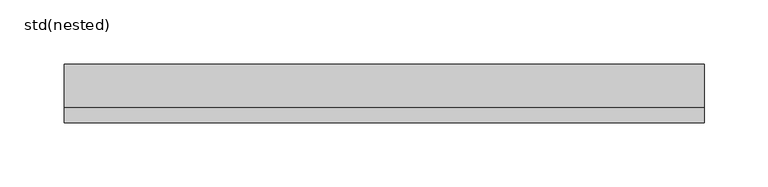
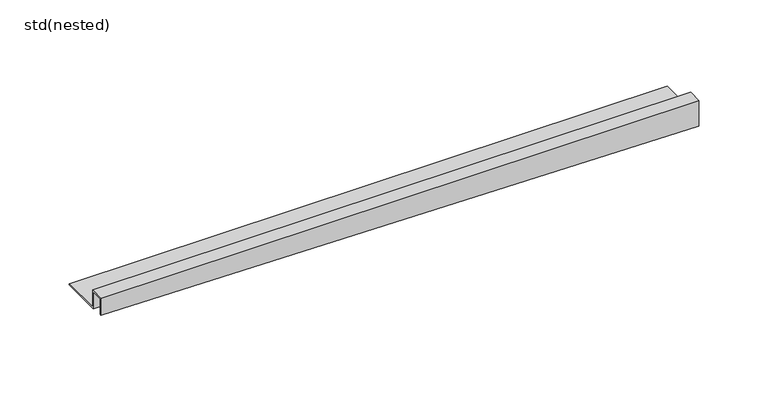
"""IFC4 building model written with IfcOpenShell, lengths in millimetres: sanitary terminal geometry, ZZZ_do not use_PF_UN_ShowerStep Black_ACO : std(nested)."""

import ifcopenshell
import ifcopenshell.guid

model = None  # the IFC model being written
_history = None  # IfcOwnerHistory: only IFC2X3 demands one
_inside = {}  # id of a spatial element -> (the spatial element, [elements in it])
_under = {}  # id of a project, library or spatial element -> (it, [spatial elements below it])
_declared = {}  # id of a project -> (the project, [libraries it declares])
_typed = {}  # id of a type object -> (the type object, [elements of that type])
_made_of = {}  # id of a material, layer set ... -> (it, [elements and type objects made of it])


def new_model(schema):
    """Start an empty IFC model of exactly this schema.

    Asked for "IFC4X3", IfcOpenShell would pick the latest addendum, in which some entities
    have other attributes; the version numbers below select the first issue.
    IFC2X3 requires an IfcOwnerHistory on every rooted entity: one is made here for all.
    """
    global model, _history
    if schema == "IFC4X3":
        model = ifcopenshell.file(schema_version=(4, 3, 0, 0))
    else:
        model = ifcopenshell.file(schema=schema)
    _inside.clear()
    _under.clear()
    _declared.clear()
    _typed.clear()
    _made_of.clear()
    _history = None
    if model.schema == "IFC2X3":
        org = make("IfcOrganization", Name="unknown")
        user = make(
            "IfcPersonAndOrganization",
            ThePerson=make("IfcPerson", FamilyName="unknown"),
            TheOrganization=org,
        )
        app = make(
            "IfcApplication",
            ApplicationDeveloper=org,
            Version="unknown",
            ApplicationFullName="unknown",
            ApplicationIdentifier="unknown",
        )
        _history = make(
            "IfcOwnerHistory",
            OwningUser=user,
            OwningApplication=app,
            ChangeAction="ADDED",
            CreationDate=0,
        )
    return model


def make(cls, **values):
    """One entity of the class cls with the attributes given. An attribute that is None is left unset."""
    return model.create_entity(
        cls, **{name: value for name, value in values.items() if value is not None}
    )


def rooted(cls, **values):
    """An entity with a GlobalId (a new one), such as an element, a storey or a relation."""
    return make(cls, GlobalId=ifcopenshell.guid.new(), OwnerHistory=_history, **values)


def si_unit(unit_type, name, prefix=None):
    """IfcSIUnit, for example si_unit("LENGTHUNIT", "METRE", prefix="MILLI")."""
    return make("IfcSIUnit", UnitType=unit_type, Prefix=prefix, Name=name)


def assignment(units):
    """IfcUnitAssignment: the units of a project."""
    return None if units is None else make("IfcUnitAssignment", Units=units)


def point(xyz):
    """IfcCartesianPoint."""
    return None if xyz is None else make("IfcCartesianPoint", Coordinates=xyz)


def direction(xyz):
    """IfcDirection."""
    return None if xyz is None else make("IfcDirection", DirectionRatios=xyz)


def frame(location, z_axis=None, x_axis=None):
    """IfcAxis2Placement3D, a coordinate frame: its origin and axes. An axis left out is left unset."""
    return make(
        "IfcAxis2Placement3D",
        Location=point(location),
        Axis=direction(z_axis),
        RefDirection=direction(x_axis),
    )


def origin():
    """The frame at (0, 0, 0) with its axes left unset."""
    return frame((0.0, 0.0, 0.0))


def place(relative_to, where):
    """IfcLocalPlacement: puts the frame where relative to a parent placement (None: the world)."""
    return make(
        "IfcLocalPlacement", PlacementRelTo=relative_to, RelativePlacement=where
    )


def context(
    kind, dimensions, precision=None, world=None, true_north=None, identifier=None
):
    """IfcGeometricRepresentationContext, for example the 3D "Model" context."""
    return make(
        "IfcGeometricRepresentationContext",
        ContextIdentifier=identifier,
        ContextType=kind,
        CoordinateSpaceDimension=dimensions,
        Precision=precision,
        WorldCoordinateSystem=world,
        TrueNorth=true_north,
    )


def project(units=None, contexts=None):
    """IfcProject with its units and contexts."""
    return rooted(
        "IfcProject",
        Name="project",
        RepresentationContexts=contexts,
        UnitsInContext=assignment(units),
    )


def spatial(cls, under=None, at=None, **own):
    """A site, building, storey or space (cls), placed at a placement, below another one or the project."""
    s = rooted(cls, ObjectPlacement=at, **own)
    if under is not None:
        _under.setdefault(under.id(), (under, []))[1].append(s)
    return s


def faces_of(points, faces, orient=None, outer=None):
    """IfcFace entities. A face is a list of loops; a loop is a list of indices into points, from 0.

    orient and outer hold one flag for each loop. By default every Orientation is true, the
    first loop of a face is its IfcFaceOuterBound and the others are IfcFaceBound.
    """
    made = []
    for i, loops in enumerate(faces):
        bounds = []
        for j, loop in enumerate(loops):
            is_outer = j == 0 if outer is None else outer[i][j]
            bounds.append(
                make(
                    "IfcFaceOuterBound" if is_outer else "IfcFaceBound",
                    Bound=make("IfcPolyLoop", Polygon=[points[k] for k in loop]),
                    Orientation=True if orient is None else orient[i][j],
                )
            )
        made.append(make("IfcFace", Bounds=bounds))
    return made


def faceted_brep(points, faces, orient=None, outer=None, voids=None):
    """IfcFacetedBrep: a solid bounded by flat faces; with voids (closed shells), ...WithVoids."""
    shared = [point(p) for p in points]
    hull = make("IfcClosedShell", CfsFaces=faces_of(shared, faces, orient, outer))
    if voids is None:
        return make("IfcFacetedBrep", Outer=hull)
    return make(
        "IfcFacetedBrepWithVoids",
        Outer=hull,
        Voids=[
            make(cls, CfsFaces=faces_of(shared, fs, o, b)) for cls, fs, o, b in voids
        ],
    )


def shape(context_of_items, identifier, shape_type, items):
    """IfcShapeRepresentation: the items that make up one representation, for example the "Body"."""
    return make(
        "IfcShapeRepresentation",
        ContextOfItems=context_of_items,
        RepresentationIdentifier=identifier,
        RepresentationType=shape_type,
        Items=items,
    )


def source(mapping_origin, context_of_items, identifier, shape_type, items):
    """IfcRepresentationMap: a shape defined once, which mapped items show again and again."""
    return make(
        "IfcRepresentationMap",
        MappingOrigin=mapping_origin,
        MappedRepresentation=shape(context_of_items, identifier, shape_type, items),
    )


def transform(
    local_origin,
    x_axis=None,
    y_axis=None,
    z_axis=None,
    scale=None,
    scale2=None,
    scale3=None,
    uniform=True,
):
    """IfcCartesianTransformationOperator3D, or its non-uniform kind. x_axis, y_axis, z_axis: its Axis1, 2, 3."""
    if uniform:
        return make(
            "IfcCartesianTransformationOperator3D",
            Axis1=direction(x_axis),
            Axis2=direction(y_axis),
            LocalOrigin=point(local_origin),
            Scale=scale,
            Axis3=direction(z_axis),
        )
    return make(
        "IfcCartesianTransformationOperator3DnonUniform",
        Axis1=direction(x_axis),
        Axis2=direction(y_axis),
        LocalOrigin=point(local_origin),
        Scale=scale,
        Axis3=direction(z_axis),
        Scale2=scale2,
        Scale3=scale3,
    )


def mapped(mapping_source, mapping_target):
    """IfcMappedItem: shows the shape of a source again, moved by a transform."""
    return make(
        "IfcMappedItem", MappingSource=mapping_source, MappingTarget=mapping_target
    )


def made_of(thing, what):
    """Note that an element or type object is made of a material, layer set ...; save() writes the relation."""
    if what is not None:
        _made_of.setdefault(what.id(), (what, []))[1].append(thing)
    return thing


def element(
    cls,
    number,
    at=None,
    inside=None,
    cuts=None,
    type_object=None,
    material=None,
    context=None,
    identifier="Body",
    shape_type=None,
    held_by="IfcProductDefinitionShape",
    body=None,
    shapes=None,
    **own,
):
    """One element of the class cls, such as IfcWall. Its Tag is "e" and its number.

    at: its placement. inside: the storey or other place that contains it. cuts: it is an
    opening in that element (IfcRelVoidsElement). A single representation is given by context,
    identifier, shape_type and body (its items); several are given by shapes. held_by: the class
    of the entity that holds the representations. save() writes the other relations.
    """
    e = rooted(cls, Tag="e%d" % number, ObjectPlacement=at, **own)
    if body is not None:
        shapes = [shape(context, identifier, shape_type, body)]
    if shapes is not None:
        e.Representation = make(held_by, Representations=shapes)
    if inside is not None:
        _inside.setdefault(inside.id(), (inside, []))[1].append(e)
    if cuts is not None:
        rooted(
            "IfcRelVoidsElement", RelatingBuildingElement=cuts, RelatedOpeningElement=e
        )
    if type_object is not None:
        _typed.setdefault(type_object.id(), (type_object, []))[1].append(e)
    return made_of(e, material)


def aggregate(whole, parts):
    """IfcRelAggregates: a whole, such as a stair, and the parts it consists of."""
    return rooted("IfcRelAggregates", RelatingObject=whole, RelatedObjects=parts)


def save(model, path):
    """Write the relations noted so far, then the file.

    IfcRelAggregates (storeys below a building ...), IfcRelContainedInSpatialStructure (elements
    in a storey), IfcRelDefinesByType, IfcRelAssociatesMaterial and IfcRelDeclares: one each for
    every whole, place, type object, material and project.
    """
    for whole, parts in _under.values():
        aggregate(whole, parts)
    for where, things in _inside.values():
        rooted(
            "IfcRelContainedInSpatialStructure",
            RelatedElements=things,
            RelatingStructure=where,
        )
    for kind, things in _typed.values():
        rooted("IfcRelDefinesByType", RelatedObjects=things, RelatingType=kind)
    for what, things in _made_of.values():
        rooted("IfcRelAssociatesMaterial", RelatedObjects=things, RelatingMaterial=what)
    for by, libraries in _declared.values():
        rooted("IfcRelDeclares", RelatingContext=by, RelatedDefinitions=libraries)
    model.write(path)


def std_nested_00a3679f(model_context):
    return source(origin(), model_context, "Body", "Brep", [
        faceted_brep([(0.0, 12.0076915, -15.0), (0.0, 46.0004219, -15.0), (0.0, 46.0004219, -16.0), (0.0, 11.0004219, -16.0), (0.0, 11.0004219, -1.0), (0.0, 1.0, -1.0), (0.0, 1.0, -15.0), (0.0, 0.0, -15.0), (0.0, 0.0, 0.0), (0.0, 12.0076915, 0.0), (500.0, 12.0076915, 0.0), (500.0, 12.0076915, -15.0), (500.0, 0.0, 0.0), (500.0, 0.0, -22.5757576), (500.0, 1.0, -22.5757576), (500.0, 1.0, -1.0), (500.0, 11.0004219, -1.0), (500.0, 11.0004219, -16.0), (500.0, 46.0004219, -16.0), (500.0, 46.0004219, -15.0)], [[[0, 1, 2, 3, 4, 5, 6, 7, 8, 9]], [[0, 9, 10, 11]], [[9, 8, 12, 10]], [[8, 7, 13, 12]], [[7, 6, 14, 13]], [[6, 5, 15, 14]], [[5, 4, 16, 15]], [[4, 3, 17, 16]], [[3, 2, 18, 17]], [[2, 1, 19, 18]], [[1, 0, 11, 19]], [[11, 10, 12, 13, 14, 15, 16, 17, 18, 19]]]),
    ])


if __name__ == "__main__":
    model = new_model("IFC4")
    model_context = context("Model", 3, world=origin())
    ifc_project = project(units=[si_unit("LENGTHUNIT", "METRE", prefix="MILLI")], contexts=[model_context])
    site = spatial("IfcSite", under=ifc_project)
    building = spatial("IfcBuilding", under=site)
    placement = place(None, origin())
    std_nested_shape = std_nested_00a3679f(model_context)
    element("IfcSanitaryTerminal", 1, ObjectType="ZZZ_do not use_PF_UN_ShowerStep Black_ACO : std(nested)", at=placement, inside=building, context=model_context, shape_type="MappedRepresentation", body=[
        mapped(std_nested_shape, transform((0.0, 0.0, 0.0), x_axis=(1.0, 0.0, 0.0), y_axis=(0.0, 1.0, 0.0), z_axis=(0.0, 0.0, 1.0))),
    ])
    save(model, "model.ifc")
